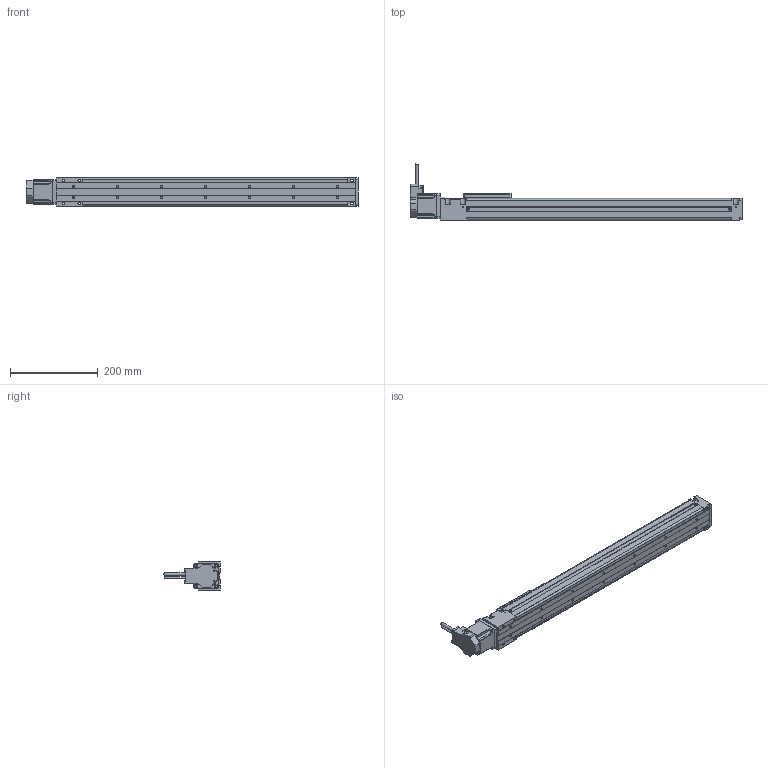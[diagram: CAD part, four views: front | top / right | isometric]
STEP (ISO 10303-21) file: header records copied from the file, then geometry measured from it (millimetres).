
FILE_DESCRIPTION(/* description */ ('Alibre Inc.'),/* implementation_level */ '2;1');
FILE_NAME(/* name */ 'export0',/* time_stamp */ '2010-04-01T10:47:44-04:00',/* author */ (''),/* organization */ (''),/* preprocessor_version */ 'ST-DEVELOPER v10',/* originating_system */ 'Alibre',/* authorisation */ '');
FILE_SCHEMA (('CONFIG_CONTROL_DESIGN'));
Length unit declared in the file: centimetre
Products named in the file (6): 1; 2; ID_1; ID_2; ID_3
Bounding box: 756 x 127.68 x 64 mm (x, y, z)
Volume: 809763.6 mm3; surface area: 386918.4 mm2
Topology: 4 solids, 4 shells, 846 faces, 2216 edges, 1386 vertices
Faces by surface type: plane 492, cylinder 220, cone 102, torus 28, sphere 4
Full cylindrical faces by diameter (mm): 3.5 x2, 4.5 x4, 5.5 x1, 6.5 x1, 8 x1, 38.13 x1, 38.15 x1
Entity records: 25880 total; most frequent: CARTESIAN_POINT 4692, ORIENTED_EDGE 4364, DIRECTION 3920, EDGE_CURVE 2182, VECTOR 1558, LINE 1558, AXIS2_PLACEMENT_3D 1437, VERTEX_POINT 1379
